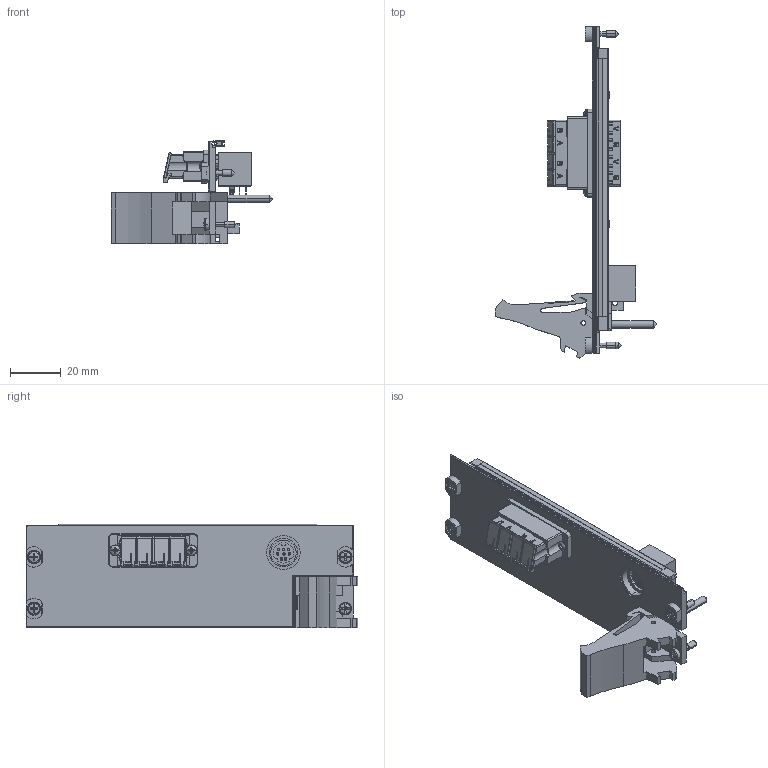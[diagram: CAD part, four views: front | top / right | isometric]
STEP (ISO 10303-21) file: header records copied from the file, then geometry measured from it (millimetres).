
FILE_DESCRIPTION((''),'2;1');
FILE_NAME('CU_PXIE-4844','2010-07-13T',('jjorden'),(''),'PRO/ENGINEER BY PARAMETRIC TECHNOLOGY CORPORATION, 2006510','PRO/ENGINEER BY PARAMETRIC TECHNOLOGY CORPORATION, 2006510','');
FILE_SCHEMA(('CONFIG_CONTROL_DESIGN'));
Length unit declared in the file: inch
Products named in the file (1): CU_PXIE-4844
Bounding box: 63.53 x 130.5 x 40.61 mm (x, y, z)
Volume: 29112.4 mm3; surface area: 30606.2 mm2
Topology: 5 solids, 5 shells, 1886 faces, 5050 edges, 3228 vertices
Faces by surface type: plane 1260, cylinder 451, cone 76, bspline 51, torus 36, sphere 12
Entity records: 62500 total; most frequent: CARTESIAN_POINT 15393, ORIENTED_EDGE 10004, DIRECTION 9326, EDGE_CURVE 5002, VECTOR 3736, LINE 3736, VERTEX_POINT 3266, AXIS2_PLACEMENT_3D 2795
